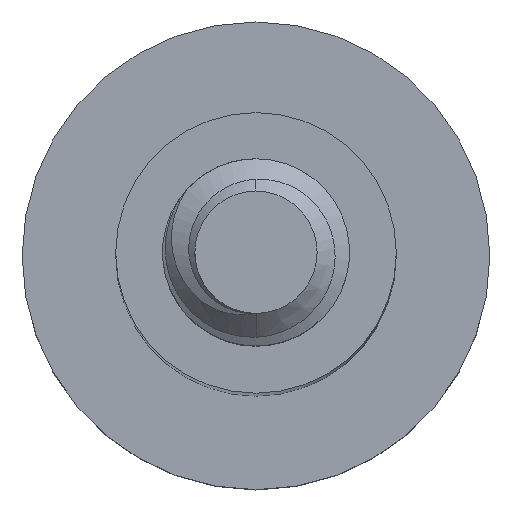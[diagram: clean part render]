
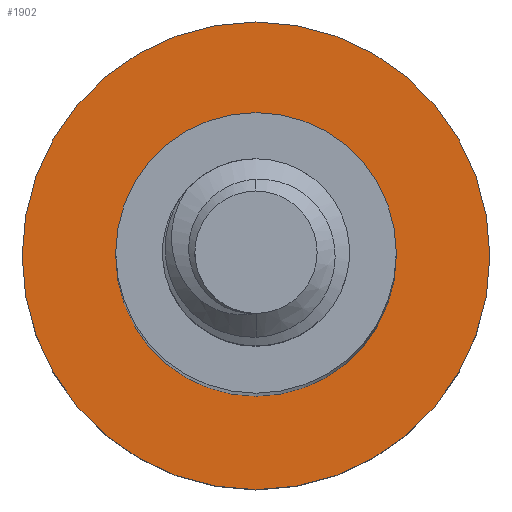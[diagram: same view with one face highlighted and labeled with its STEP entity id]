
A CAD part, top view. The second image highlights one B-rep face of the part: STEP entity #1902.
In plain terms, the highlighted planar face has unit normal (0, 0, 1).
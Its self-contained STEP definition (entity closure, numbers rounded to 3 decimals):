
#27 = EDGE_CURVE ( 'NONE', #1204, #1110, #1150, .T. ) ;
#133 = ORIENTED_EDGE ( 'NONE', *, *, #27, .F. ) ;
#146 = CARTESIAN_POINT ( 'NONE',  ( 0., 0., -18. ) ) ;
#178 = FACE_OUTER_BOUND ( 'NONE', #1993, .T. ) ;
#233 = VERTEX_POINT ( 'NONE', #1383 ) ;
#299 = DIRECTION ( 'NONE',  ( -1., 0., 0. ) ) ;
#301 = CARTESIAN_POINT ( 'NONE',  ( -1.5, 0., -18. ) ) ;
#308 = EDGE_LOOP ( 'NONE', ( #1083, #1663 ) ) ;
#357 = AXIS2_PLACEMENT_3D ( 'NONE', #1140, #362, #1728 ) ;
#362 = DIRECTION ( 'NONE',  ( 0., 0., -1. ) ) ;
#507 = CARTESIAN_POINT ( 'NONE',  ( 2.5, 0., -18. ) ) ;
#554 = PLANE ( 'NONE',  #1605 ) ;
#569 = FACE_BOUND ( 'NONE', #308, .T. ) ;
#582 = CARTESIAN_POINT ( 'NONE',  ( 0., 0., -18. ) ) ;
#641 = EDGE_CURVE ( 'NONE', #1110, #1204, #647, .T. ) ;
#647 = CIRCLE ( 'NONE', #2446, 2.5 ) ;
#751 = DIRECTION ( 'NONE',  ( 0., 0., -1. ) ) ;
#848 = DIRECTION ( 'NONE',  ( 0., 0., -1. ) ) ;
#872 = AXIS2_PLACEMENT_3D ( 'NONE', #146, #943, #1716 ) ;
#943 = DIRECTION ( 'NONE',  ( 0., 0., -1. ) ) ;
#1083 = ORIENTED_EDGE ( 'NONE', *, *, #1448, .T. ) ;
#1105 = CIRCLE ( 'NONE', #357, 1.5 ) ;
#1107 = CIRCLE ( 'NONE', #1644, 1.5 ) ;
#1110 = VERTEX_POINT ( 'NONE', #1363 ) ;
#1140 = CARTESIAN_POINT ( 'NONE',  ( 0., 0., -18. ) ) ;
#1150 = CIRCLE ( 'NONE', #872, 2.5 ) ;
#1204 = VERTEX_POINT ( 'NONE', #507 ) ;
#1271 = VERTEX_POINT ( 'NONE', #301 ) ;
#1363 = CARTESIAN_POINT ( 'NONE',  ( -2.5, 0., -18. ) ) ;
#1383 = CARTESIAN_POINT ( 'NONE',  ( 1.5, 0., -18. ) ) ;
#1448 = EDGE_CURVE ( 'NONE', #1271, #233, #1105, .T. ) ;
#1582 = CARTESIAN_POINT ( 'NONE',  ( 0., 0., -18. ) ) ;
#1605 = AXIS2_PLACEMENT_3D ( 'NONE', #582, #751, #1878 ) ;
#1644 = AXIS2_PLACEMENT_3D ( 'NONE', #1582, #848, #1951 ) ;
#1663 = ORIENTED_EDGE ( 'NONE', *, *, #1697, .T. ) ;
#1697 = EDGE_CURVE ( 'NONE', #233, #1271, #1107, .T. ) ;
#1716 = DIRECTION ( 'NONE',  ( -1., 0., 0. ) ) ;
#1728 = DIRECTION ( 'NONE',  ( -1., 0., 0. ) ) ;
#1878 = DIRECTION ( 'NONE',  ( -1., 0., 0. ) ) ;
#1902 = ADVANCED_FACE ( 'NONE', ( #569, #178 ), #554, .F. ) ;
#1951 = DIRECTION ( 'NONE',  ( -1., 0., 0. ) ) ;
#1993 = EDGE_LOOP ( 'NONE', ( #133, #2157 ) ) ;
#2157 = ORIENTED_EDGE ( 'NONE', *, *, #641, .F. ) ;
#2198 = CARTESIAN_POINT ( 'NONE',  ( 0., 0., -18. ) ) ;
#2394 = DIRECTION ( 'NONE',  ( 0., 0., -1. ) ) ;
#2446 = AXIS2_PLACEMENT_3D ( 'NONE', #2198, #2394, #299 ) ;
